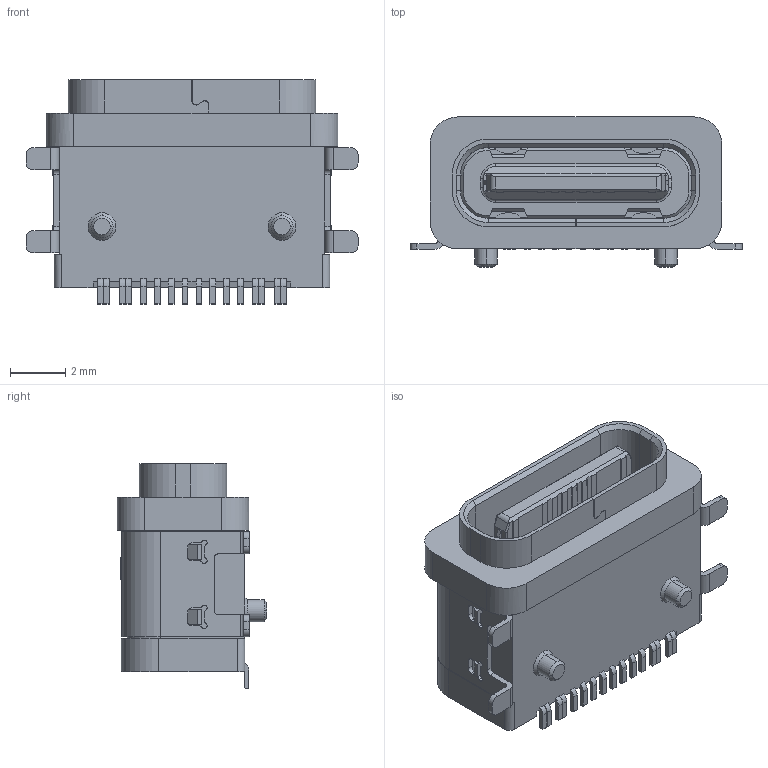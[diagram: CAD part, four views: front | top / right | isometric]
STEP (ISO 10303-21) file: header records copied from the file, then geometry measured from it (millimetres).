
FILE_DESCRIPTION (( 'STEP AP203' ), '1' );
FILE_NAME ('U5434-16PN7.5LF.STEP', '2026-09-22T06:35:40', ( '' ), ( '' ), 'SwSTEP 2.0', 'SolidWorks 2024', '' );
FILE_SCHEMA (( 'CONFIG_CONTROL_DESIGN' ));
Length unit declared in the file: millimetre
Products named in the file (9): ATCF-16-023_TYPE_C0001_ASM; 300; 100; U5434-16PN7.5LF(2); U5434-16PN7.5LF; 400; ATCF-16-023_TYPE_C0002_ASM; 200; STCF-00-032_TYPE_C0001
Assembly tree (8 placements, depth 5):
  U5434-16PN7.5LF
    U5434-16PN7.5LF(2)
      ATCF-16-023_TYPE_C0001_ASM
        ATCF-16-023_TYPE_C0002_ASM
          400
          100
          300
          200
      STCF-00-032_TYPE_C0001
Bounding box: 11.99 x 5.41 x 8.1 mm (x, y, z)
Volume: 238.3 mm3; surface area: 622.5 mm2
Topology: 5 solids, 5 shells, 755 faces, 2084 edges, 1359 vertices
Faces by surface type: plane 470, cylinder 220, bspline 25, torus 20, cone 20
Entity records: 26436 total; most frequent: CARTESIAN_POINT 6166, ORIENTED_EDGE 4168, DIRECTION 3883, EDGE_CURVE 2084, VECTOR 1471, LINE 1471, VERTEX_POINT 1359, AXIS2_PLACEMENT_3D 1206
